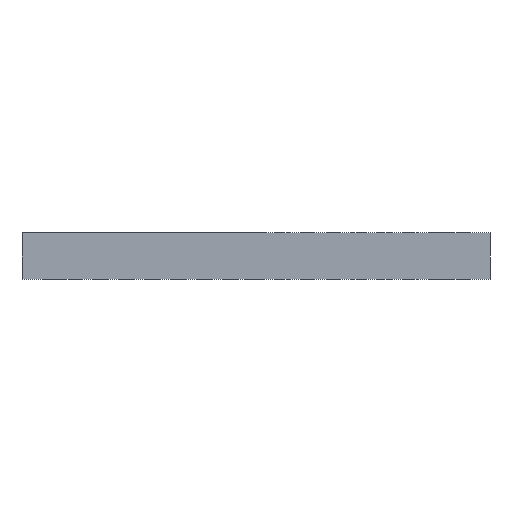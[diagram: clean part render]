
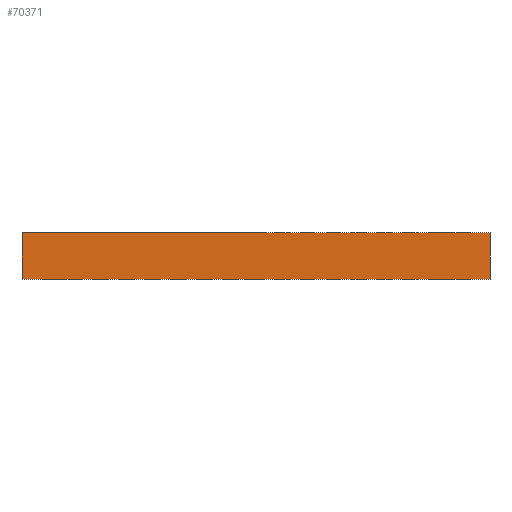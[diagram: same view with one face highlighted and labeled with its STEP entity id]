
A CAD part, left-side view. The second image highlights one B-rep face of the part: STEP entity #70371.
In plain terms, the highlighted planar face has unit normal (-1, 0, 0).
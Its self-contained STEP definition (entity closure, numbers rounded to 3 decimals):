
#4908=FACE_OUTER_BOUND('',#9456,.T.);
#9456=EDGE_LOOP('',(#62896,#62897,#62898,#62899));
#10416=LINE('',#95506,#19270);
#14843=LINE('',#108463,#23697);
#18312=LINE('',#115704,#27166);
#18313=LINE('',#115705,#27167);
#19270=VECTOR('',#75443,10.);
#23697=VECTOR('',#83380,10.);
#27166=VECTOR('',#89769,1.);
#27167=VECTOR('',#89770,1.);
#28744=VERTEX_POINT('',#95502);
#28746=VERTEX_POINT('',#95505);
#31930=VERTEX_POINT('',#108456);
#31933=VERTEX_POINT('',#108461);
#35552=EDGE_CURVE('',#28746,#28744,#10416,.T.);
#40331=EDGE_CURVE('',#31933,#31930,#14843,.T.);
#43800=EDGE_CURVE('',#28744,#31930,#18312,.T.);
#43801=EDGE_CURVE('',#28746,#31933,#18313,.T.);
#62896=ORIENTED_EDGE('',*,*,#35552,.T.);
#62897=ORIENTED_EDGE('',*,*,#43800,.T.);
#62898=ORIENTED_EDGE('',*,*,#40331,.F.);
#62899=ORIENTED_EDGE('',*,*,#43801,.F.);
#66430=PLANE('',#73889);
#70371=ADVANCED_FACE('',(#4908),#66430,.T.);
#73889=AXIS2_PLACEMENT_3D('',#115703,#89767,#89768);
#75443=DIRECTION('',(0.,-1.,0.));
#83380=DIRECTION('',(0.,-1.,0.));
#89767=DIRECTION('center_axis',(-1.,0.,0.));
#89768=DIRECTION('ref_axis',(0.,-1.,0.));
#89769=DIRECTION('',(0.,0.,1.));
#89770=DIRECTION('',(0.,0.,1.));
#95502=CARTESIAN_POINT('',(-5.,-5.,0.));
#95505=CARTESIAN_POINT('',(-5.,5.,0.));
#95506=CARTESIAN_POINT('',(-5.,5.,0.));
#108456=CARTESIAN_POINT('',(-5.,-5.,1.));
#108461=CARTESIAN_POINT('',(-5.,5.,1.));
#108463=CARTESIAN_POINT('',(-5.,5.,1.));
#115703=CARTESIAN_POINT('Origin',(-5.,5.,0.));
#115704=CARTESIAN_POINT('',(-5.,-5.,0.));
#115705=CARTESIAN_POINT('',(-5.,5.,0.));
